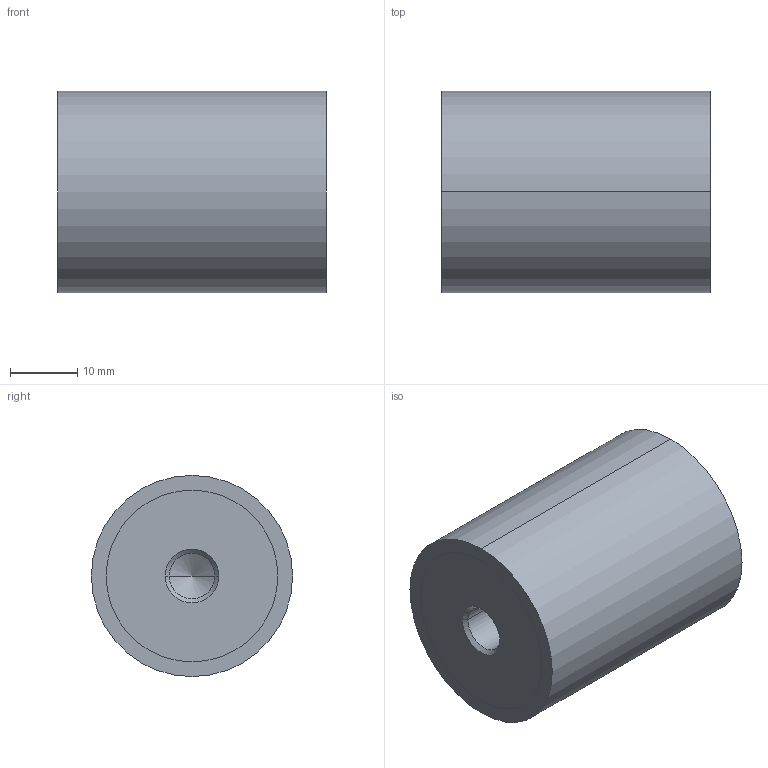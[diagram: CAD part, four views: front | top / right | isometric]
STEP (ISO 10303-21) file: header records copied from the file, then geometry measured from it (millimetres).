
FILE_DESCRIPTION (( 'STEP AP214' ), '1' );
FILE_NAME ('451-30-40-M8-EE-70.step', '2020-03-05T09:12:30', ( '' ), ( '' ), 'SwSTEP 2.0', 'SolidWorks 2019', '' );
FILE_SCHEMA (( 'AUTOMOTIVE_DESIGN' ));
Length unit declared in the file: millimetre
Products named in the file (1): 451-30-40-M8-EE-70
Bounding box: 40 x 30 x 30 mm (x, y, z)
Volume: 27626.4 mm3; surface area: 5524.9 mm2
Topology: 1 solids, 1 shells, 22 faces, 46 edges, 26 vertices
Faces by surface type: cylinder 10, cone 8, plane 4
Entity records: 684 total; most frequent: DIRECTION 112, CARTESIAN_POINT 91, ORIENTED_EDGE 84, AXIS2_PLACEMENT_3D 47, EDGE_CURVE 42, EDGE_LOOP 26, VERTEX_POINT 26, CIRCLE 24
